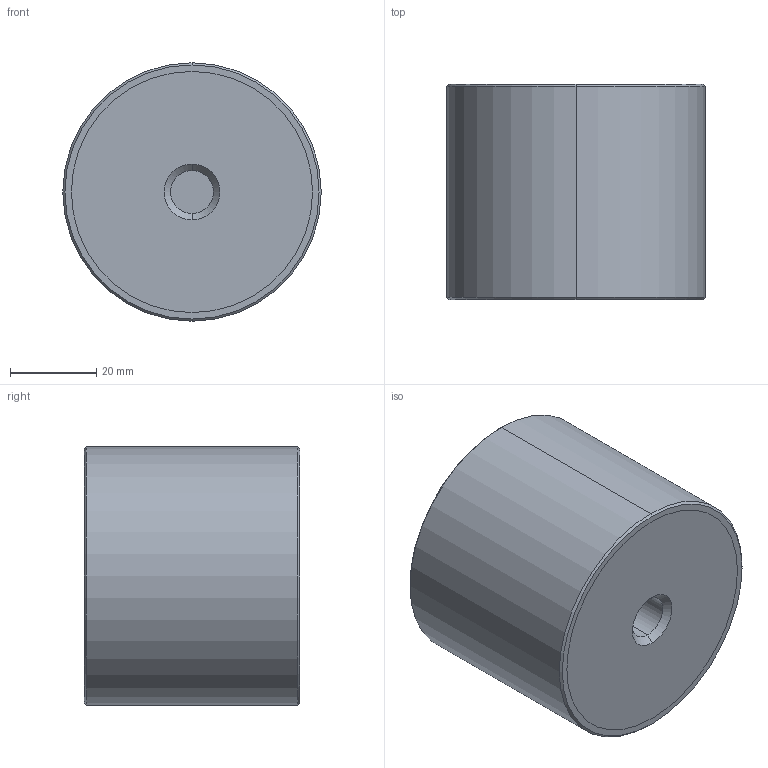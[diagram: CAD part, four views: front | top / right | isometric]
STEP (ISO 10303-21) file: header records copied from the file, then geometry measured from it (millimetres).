
FILE_DESCRIPTION (( 'STEP AP203' ), '1' );
FILE_NAME ('61080.W0603.step', '2018-07-16T20:45:52', ( '' ), ( '' ), 'SwSTEP 2.0', 'SolidWorks 2017', '' );
FILE_SCHEMA (( 'CONFIG_CONTROL_DESIGN' ));
Length unit declared in the file: millimetre
Products named in the file (4): 61080.W0603; Part1_61080.W0603; Part2_61080.W0603; Part3_61080.W0603
Assembly tree (3 placements, depth 2):
  61080.W0603
    Part1_61080.W0603
    Part2_61080.W0603
    Part3_61080.W0603
Bounding box: 60 x 50 x 60 mm (x, y, z)
Volume: 139676.3 mm3; surface area: 26141 mm2
Topology: 3 solids, 3 shells, 32 faces, 62 edges, 40 vertices
Faces by surface type: cylinder 14, plane 10, cone 8
Entity records: 1256 total; most frequent: DIRECTION 178, CARTESIAN_POINT 140, ORIENTED_EDGE 124, AXIS2_PLACEMENT_3D 78, EDGE_CURVE 62, EDGE_LOOP 40, CIRCLE 40, VERTEX_POINT 40
